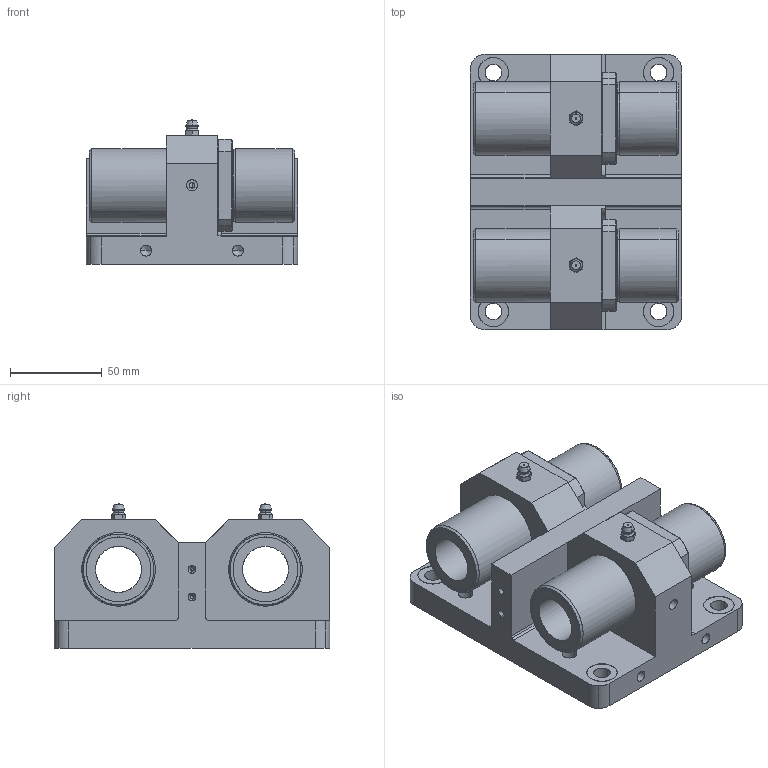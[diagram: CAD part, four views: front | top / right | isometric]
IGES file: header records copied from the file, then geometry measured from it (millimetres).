
Global section: file name: No Iges File Name specified; native system: AutoDesk Inventor R10; preprocessor: AutoDesk Inventor Iges Exporter R10; author: No Author specified; organization: No Organization specified; date: 20101227.095813; units: millimetre
Bounding box: 115 x 150 x 78.8 mm (x, y, z)
Surface area: 134480.7 mm2 (no closed solid volume)
Topology: 0 solids, 0 shells, 592 faces, 4058 edges, 4000 vertices
Faces by surface type: bspline 592
